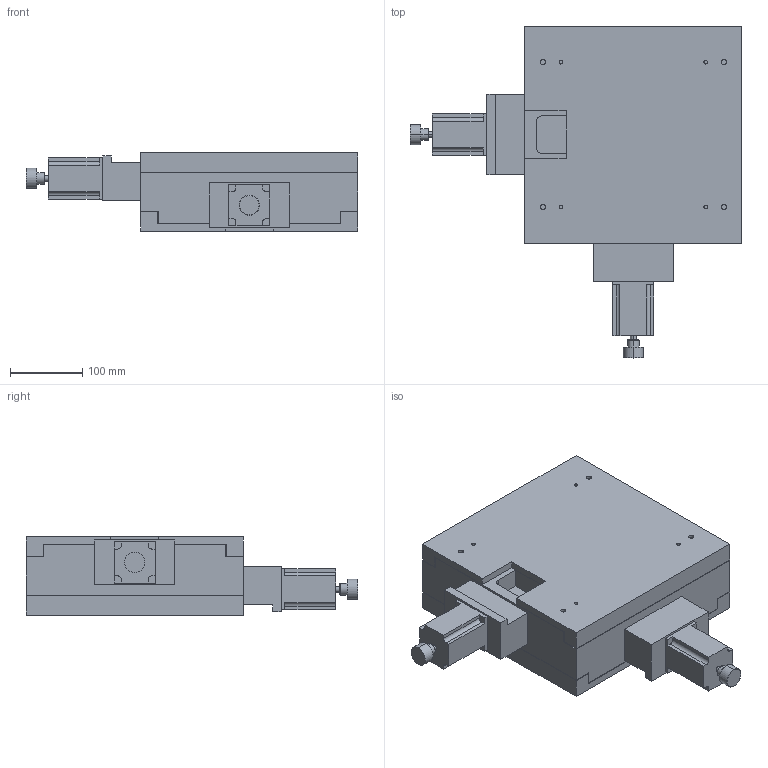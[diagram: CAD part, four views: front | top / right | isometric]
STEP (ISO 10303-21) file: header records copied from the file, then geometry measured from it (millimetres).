
FILE_DESCRIPTION (( 'STEP AP203' ), '1' );
FILE_NAME ('PT-XY170.STEP', '2017-01-17T03:28:54', ( '微软用户' ), ( '微软中国' ), 'SwSTEP 2.0', 'SolidWorks 2016', '' );
FILE_SCHEMA (( 'CONFIG_CONTROL_DESIGN' ));
Length unit declared in the file: millimetre
Products named in the file (3): PT-XY170; 怢醱
Assembly tree (3 placements, depth 2):
  PT-XY170
    PT-XY170
    怢醱  x2
Bounding box: 458.5 x 458.5 x 108 mm (x, y, z)
Volume: 10469938.3 mm3; surface area: 789837.4 mm2
Topology: 3 solids, 4 shells, 193 faces, 494 edges, 328 vertices
Faces by surface type: plane 115, cylinder 72, cone 6
Entity records: 4939 total; most frequent: DIRECTION 804, CARTESIAN_POINT 799, ORIENTED_EDGE 772, EDGE_CURVE 386, LINE 282, VECTOR 282, AXIS2_PLACEMENT_3D 261, VERTEX_POINT 256
